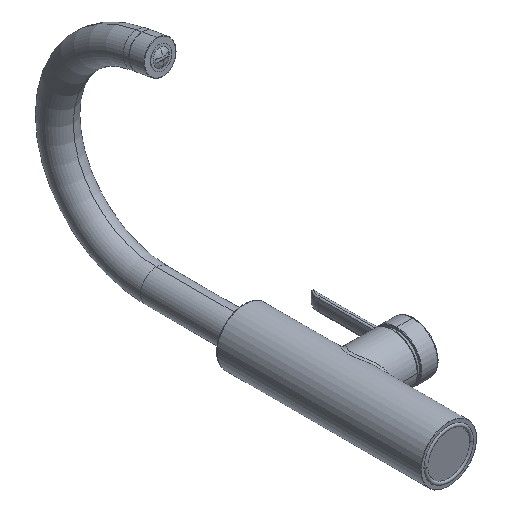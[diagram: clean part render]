
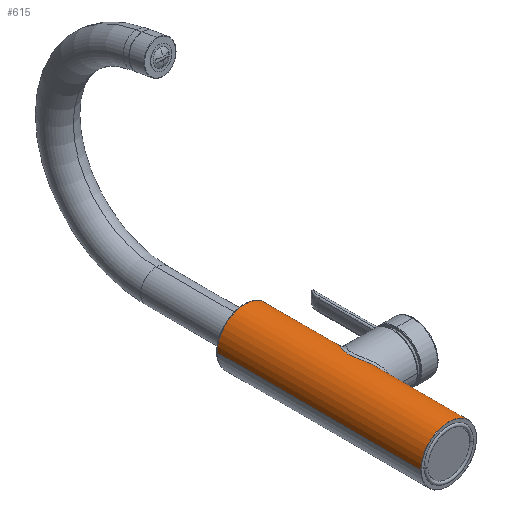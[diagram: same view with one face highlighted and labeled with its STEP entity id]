
A CAD part, isometric view. The second image highlights one B-rep face of the part: STEP entity #615.
In plain terms, the highlighted cylindrical face has radius 19.5 mm (diameter 39 mm), a partial arc.
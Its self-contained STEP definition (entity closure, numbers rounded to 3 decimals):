
#61=CARTESIAN_POINT('',(19.5,97.121,0.021));
#109=CARTESIAN_POINT('',(19.5,57.879,0.));
#136=CARTESIAN_POINT('',(0.,0.1,0.));
#137=DIRECTION('',(0.,-1.,0.));
#138=DIRECTION('',(1.,0.,0.));
#139=AXIS2_PLACEMENT_3D('',#136,#137,#138);
#141=DIRECTION('',(0.,-1.,0.));
#142=VECTOR('',#141,142.535);
#143=CARTESIAN_POINT('',(-19.5,142.635,0.));
#144=LINE('',#143,#142);
#145=CARTESIAN_POINT('',(0.,142.635,0.));
#146=DIRECTION('',(0.,-1.,0.));
#147=DIRECTION('',(1.,0.,0.));
#148=AXIS2_PLACEMENT_3D('',#145,#146,#147);
#150=DIRECTION('',(0.,-1.,0.));
#151=VECTOR('',#150,45.513);
#152=CARTESIAN_POINT('',(19.5,142.635,0.));
#153=LINE('',#152,#151);
#154=CARTESIAN_POINT('',(19.5,57.879,0.));
#155=CARTESIAN_POINT('',(19.5,57.879,0.435));
#156=CARTESIAN_POINT('',(19.471,57.911,1.305));
#157=CARTESIAN_POINT('',(19.339,58.056,2.618));
#158=CARTESIAN_POINT('',(19.116,58.302,3.927));
#159=CARTESIAN_POINT('',(18.796,58.657,5.254));
#160=CARTESIAN_POINT('',(18.38,59.119,6.561));
#161=CARTESIAN_POINT('',(17.853,59.709,7.888));
#162=CARTESIAN_POINT('',(17.222,60.42,9.185));
#163=CARTESIAN_POINT('',(16.468,61.28,10.479));
#164=CARTESIAN_POINT('',(15.619,62.26,11.706));
#165=CARTESIAN_POINT('',(14.702,63.341,12.836));
#166=CARTESIAN_POINT('',(13.761,64.479,13.838));
#167=CARTESIAN_POINT('',(12.849,65.615,14.684));
#168=CARTESIAN_POINT('',(11.966,66.76,15.409));
#169=CARTESIAN_POINT('',(11.155,67.862,16.004));
#170=CARTESIAN_POINT('',(10.385,68.974,16.512));
#171=CARTESIAN_POINT('',(9.691,70.055,16.927));
#172=CARTESIAN_POINT('',(9.052,71.15,17.276));
#173=CARTESIAN_POINT('',(8.503,72.218,17.551));
#174=CARTESIAN_POINT('',(8.03,73.306,17.772));
#175=CARTESIAN_POINT('',(7.662,74.369,17.933));
#176=CARTESIAN_POINT('',(7.392,75.444,18.045));
#177=CARTESIAN_POINT('',(7.233,76.489,18.109));
#178=CARTESIAN_POINT('',(7.183,77.529,18.129));
#179=CARTESIAN_POINT('',(7.239,78.568,18.107));
#180=CARTESIAN_POINT('',(7.403,79.609,18.041));
#181=CARTESIAN_POINT('',(7.677,80.68,17.926));
#182=CARTESIAN_POINT('',(8.048,81.738,17.764));
#183=CARTESIAN_POINT('',(8.522,82.821,17.543));
#184=CARTESIAN_POINT('',(9.071,83.884,17.266));
#185=CARTESIAN_POINT('',(9.709,84.974,16.917));
#186=CARTESIAN_POINT('',(10.401,86.05,16.502));
#187=CARTESIAN_POINT('',(11.169,87.158,15.994));
#188=CARTESIAN_POINT('',(11.978,88.257,15.4));
#189=CARTESIAN_POINT('',(12.859,89.397,14.676));
#190=CARTESIAN_POINT('',(13.766,90.528,13.832));
#191=CARTESIAN_POINT('',(14.703,91.66,12.834));
#192=CARTESIAN_POINT('',(15.616,92.736,11.711));
#193=CARTESIAN_POINT('',(16.461,93.712,10.49));
#194=CARTESIAN_POINT('',(17.213,94.57,9.202));
#195=CARTESIAN_POINT('',(17.844,95.281,7.907));
#196=CARTESIAN_POINT('',(18.373,95.873,6.582));
#197=CARTESIAN_POINT('',(18.79,96.337,5.274));
#198=CARTESIAN_POINT('',(19.112,96.694,3.946));
#199=CARTESIAN_POINT('',(19.336,96.941,2.637));
#200=CARTESIAN_POINT('',(19.469,97.088,1.325));
#201=CARTESIAN_POINT('',(19.5,97.121,0.456));
#202=CARTESIAN_POINT('',(19.5,97.121,0.021));
#204=DIRECTION('',(0.,-1.,0.));
#205=VECTOR('',#204,57.779);
#206=CARTESIAN_POINT('',(19.5,57.879,0.));
#207=LINE('',#206,#205);
#375=VERTEX_POINT('',#61);
#376=VERTEX_POINT('',#109);
#383=CARTESIAN_POINT('',(19.5,142.635,0.));
#384=VERTEX_POINT('',#383);
#385=CARTESIAN_POINT('',(-19.5,142.635,0.));
#386=VERTEX_POINT('',#385);
#395=CARTESIAN_POINT('',(19.5,0.1,0.));
#396=CARTESIAN_POINT('',(-19.5,0.1,0.));
#397=VERTEX_POINT('',#395);
#398=VERTEX_POINT('',#396);
#600=CARTESIAN_POINT('',(0.,153.405,0.));
#601=DIRECTION('',(0.,-1.,0.));
#602=DIRECTION('',(-1.,0.,0.));
#603=AXIS2_PLACEMENT_3D('',#600,#601,#602);
#604=CYLINDRICAL_SURFACE('',#603,19.5);
#605=ORIENTED_EDGE('',*,*,#594,.T.);
#606=ORIENTED_EDGE('',*,*,#556,.F.);
#608=ORIENTED_EDGE('',*,*,#607,.F.);
#609=ORIENTED_EDGE('',*,*,#553,.T.);
#611=ORIENTED_EDGE('',*,*,#610,.F.);
#612=ORIENTED_EDGE('',*,*,#549,.T.);
#613=EDGE_LOOP('',(#605,#606,#608,#609,#611,#612));
#614=FACE_OUTER_BOUND('',#613,.F.);
#615=ADVANCED_FACE('',(#614),#604,.T.);
#140=CIRCLE('',#139,19.5);
#149=CIRCLE('',#148,19.5);
#203=B_SPLINE_CURVE_WITH_KNOTS('',3,(#154,#155,#156,#157,#158,#159,#160,#161,
#162,#163,#164,#165,#166,#167,#168,#169,#170,#171,#172,#173,#174,#175,#176,#177,
#178,#179,#180,#181,#182,#183,#184,#185,#186,#187,#188,#189,#190,#191,#192,#193,
#194,#195,#196,#197,#198,#199,#200,#201,#202),.UNSPECIFIED.,.F.,.F.,(4,1,1,1,1,
1,1,1,1,1,1,1,1,1,1,1,1,1,1,1,1,1,1,1,1,1,1,1,1,1,1,1,1,1,1,1,1,1,1,1,1,1,1,1,1,
1,4),(0.,0.021,0.041,0.063,0.084,0.108,
0.131,0.158,0.184,0.213,0.242,
0.269,0.297,0.32,0.344,0.366,
0.387,0.406,0.424,0.441,0.458,
0.472,0.487,0.501,0.514,0.529,
0.543,0.56,0.576,0.595,0.614,
0.635,0.656,0.68,0.704,0.731,
0.759,0.787,0.816,0.842,0.869,
0.892,0.916,0.937,0.959,0.979,1.),
.UNSPECIFIED.);
#549=EDGE_CURVE('',#376,#397,#207,.T.);
#553=EDGE_CURVE('',#384,#375,#153,.T.);
#556=EDGE_CURVE('',#386,#398,#144,.T.);
#594=EDGE_CURVE('',#397,#398,#140,.T.);
#607=EDGE_CURVE('',#384,#386,#149,.T.);
#610=EDGE_CURVE('',#376,#375,#203,.T.);
